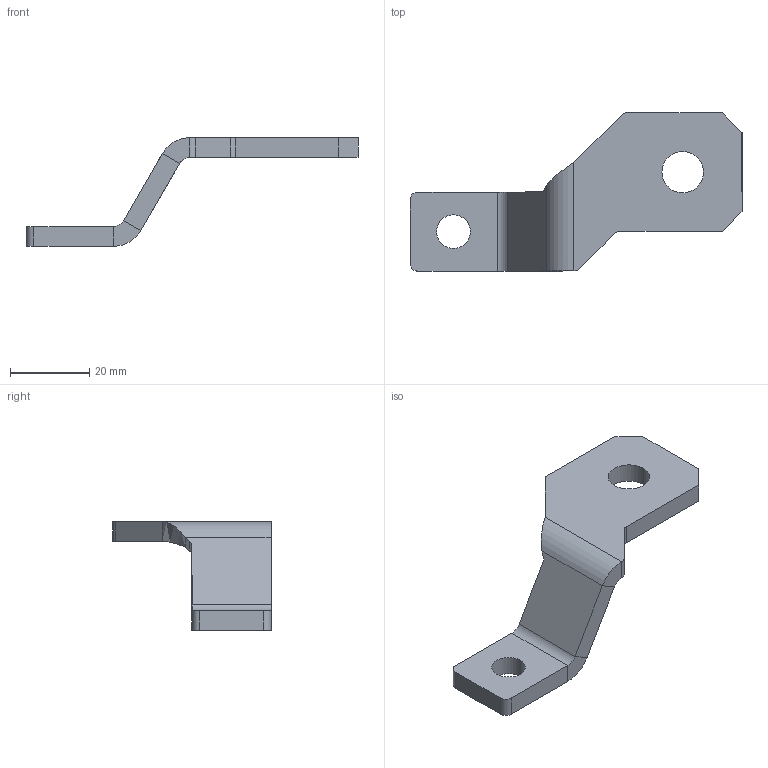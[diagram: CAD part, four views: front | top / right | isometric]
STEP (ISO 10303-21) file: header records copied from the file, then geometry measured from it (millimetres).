
FILE_DESCRIPTION (( 'STEP AP203' ), '1' );
FILE_NAME ('8LD.580.1049.STEP', '2023-09-21T10:58:34', ( '' ), ( '' ), 'SwSTEP 2.0', 'SolidWorks 2018', '' );
FILE_SCHEMA (( 'CONFIG_CONTROL_DESIGN' ));
Length unit declared in the file: millimetre
Products named in the file (1): 8LD.580.1049
Bounding box: 84 x 40 x 27.5 mm (x, y, z)
Volume: 10894.7 mm3; surface area: 5887.3 mm2
Topology: 1 solids, 1 shells, 38 faces, 92 edges, 56 vertices
Faces by surface type: plane 23, cylinder 14, bspline 1
Entity records: 1199 total; most frequent: CARTESIAN_POINT 222, DIRECTION 188, ORIENTED_EDGE 184, EDGE_CURVE 92, AXIS2_PLACEMENT_3D 64, VECTOR 60, LINE 60, VERTEX_POINT 56
